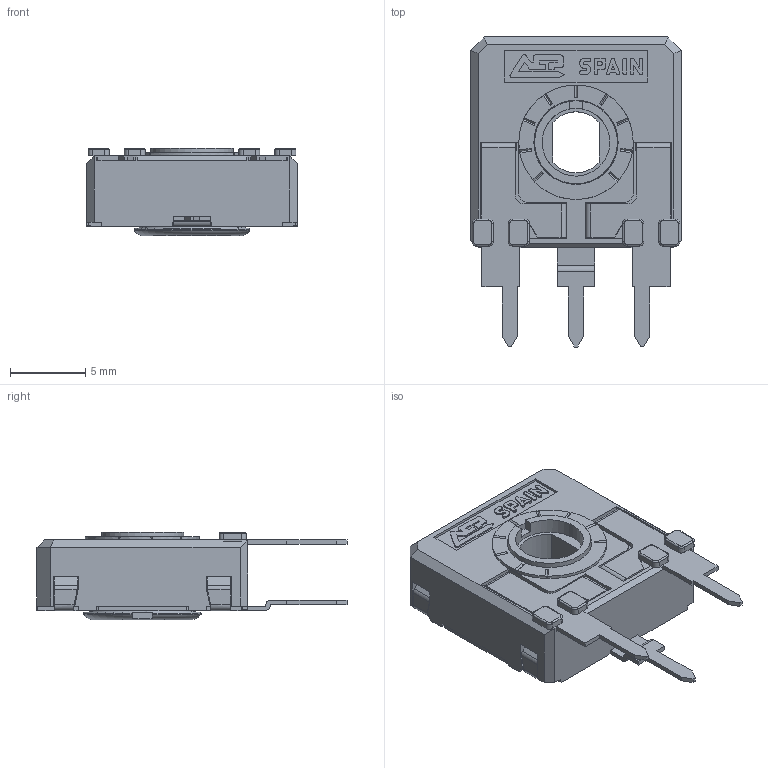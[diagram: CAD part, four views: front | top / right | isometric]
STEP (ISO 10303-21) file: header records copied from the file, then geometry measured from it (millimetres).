
FILE_DESCRIPTION(/* description */ (''),/* implementation_level */ '2;1');
FILE_NAME(/* name */ '\\SERVERACP\intercambio\Ignacio Santa Cecilia\Nueva WEB 2025\CA14 - CE14\CA14ZH4.stp',/* time_stamp */ '2025-07-01T10:20:40+02:00',/* author */ ('CEM'),/* organization */ (''),/* preprocessor_version */ 'ST-DEVELOPER v17',/* originating_system */ 'Autodesk Inventor 2018',/* authorisation */ '');
FILE_SCHEMA (('AUTOMOTIVE_DESIGN { 1 0 10303 214 3 1 1 }'));
Length unit declared in the file: millimetre
Products named in the file (1): CARCASA CA14 PGA
Bounding box: 14 x 20.6 x 5.8 mm (x, y, z)
Volume: 530.4 mm3; surface area: 1446.2 mm2
Topology: 1 solids, 1 shells, 665 faces, 1877 edges, 1208 vertices
Faces by surface type: plane 493, cylinder 135, torus 23, bspline 8, cone 6
Full cylindrical faces by diameter (mm): 4.5 x1, 5.5 x1, 5.6 x1, 5.752 x1, 6.8 x1, 7.6 x1
Entity records: 21704 total; most frequent: CARTESIAN_POINT 4048, ORIENTED_EDGE 3754, DIRECTION 3503, EDGE_CURVE 1877, LINE 1477, VECTOR 1477, VERTEX_POINT 1208, AXIS2_PLACEMENT_3D 1013
